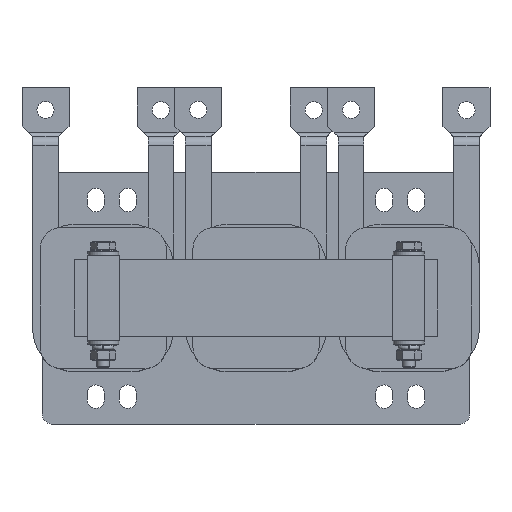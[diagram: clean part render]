
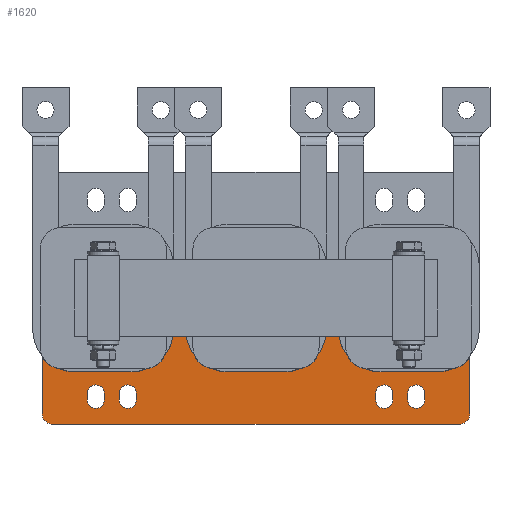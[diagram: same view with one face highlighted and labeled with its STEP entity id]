
A CAD part, top view. The second image highlights one B-rep face of the part: STEP entity #1620.
In plain terms, the highlighted planar face has unit normal (0, 0, 1).
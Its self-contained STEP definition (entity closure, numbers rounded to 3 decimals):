
#1620=ADVANCED_FACE('',(#1939,#1941,#1943,#1945,#1947),#1949,.T.);
#1939=FACE_BOUND('',#1940,.T.);
#1940=EDGE_LOOP('',(#3295,#3296,#3297,#3298,#3299,#3300));
#1941=FACE_BOUND('',#1942,.T.);
#1942=EDGE_LOOP('',(#3301,#3302,#3303,#3304));
#1943=FACE_BOUND('',#1944,.T.);
#1944=EDGE_LOOP('',(#3305,#3306,#3307,#3308));
#1945=FACE_BOUND('',#1946,.T.);
#1946=EDGE_LOOP('',(#3309,#3310,#3311,#3312));
#1947=FACE_BOUND('',#1948,.T.);
#1948=EDGE_LOOP('',(#3313,#3314,#3315,#3316));
#1949=PLANE('',#1950);
#1950=AXIS2_PLACEMENT_3D('',#1951,#1952,#1953);
#1951=CARTESIAN_POINT('',(0.,0.,2.));
#1952=DIRECTION('',(0.,0.,1.));
#1953=DIRECTION('',(-1.,0.,0.));
#3295=ORIENTED_EDGE('',*,*,#4081,.F.);
#3296=ORIENTED_EDGE('',*,*,#4101,.T.);
#3297=ORIENTED_EDGE('',*,*,#4102,.T.);
#3298=ORIENTED_EDGE('',*,*,#4103,.T.);
#3299=ORIENTED_EDGE('',*,*,#4104,.T.);
#3300=ORIENTED_EDGE('',*,*,#4105,.T.);
#3301=ORIENTED_EDGE('',*,*,#4106,.T.);
#3302=ORIENTED_EDGE('',*,*,#4107,.T.);
#3303=ORIENTED_EDGE('',*,*,#4108,.T.);
#3304=ORIENTED_EDGE('',*,*,#4109,.T.);
#3305=ORIENTED_EDGE('',*,*,#4110,.T.);
#3306=ORIENTED_EDGE('',*,*,#4111,.T.);
#3307=ORIENTED_EDGE('',*,*,#4112,.T.);
#3308=ORIENTED_EDGE('',*,*,#4113,.T.);
#3309=ORIENTED_EDGE('',*,*,#4114,.T.);
#3310=ORIENTED_EDGE('',*,*,#4115,.T.);
#3311=ORIENTED_EDGE('',*,*,#4116,.T.);
#3312=ORIENTED_EDGE('',*,*,#4117,.T.);
#3313=ORIENTED_EDGE('',*,*,#4118,.T.);
#3314=ORIENTED_EDGE('',*,*,#4119,.T.);
#3315=ORIENTED_EDGE('',*,*,#4120,.T.);
#3316=ORIENTED_EDGE('',*,*,#4121,.T.);
#4081=EDGE_CURVE('',#4516,#4518,#4519,.T.);
#4101=EDGE_CURVE('',#4516,#4551,#4553,.T.);
#4102=EDGE_CURVE('',#4551,#4554,#4555,.T.);
#4103=EDGE_CURVE('',#4554,#4556,#4557,.T.);
#4104=EDGE_CURVE('',#4556,#4558,#4559,.T.);
#4105=EDGE_CURVE('',#4558,#4518,#4560,.T.);
#4106=EDGE_CURVE('',#4561,#4562,#4563,.F.);
#4107=EDGE_CURVE('',#4562,#4564,#4565,.F.);
#4108=EDGE_CURVE('',#4564,#4566,#4567,.F.);
#4109=EDGE_CURVE('',#4566,#4561,#4568,.F.);
#4110=EDGE_CURVE('',#4569,#4570,#4571,.F.);
#4111=EDGE_CURVE('',#4570,#4572,#4573,.F.);
#4112=EDGE_CURVE('',#4572,#4574,#4575,.F.);
#4113=EDGE_CURVE('',#4574,#4569,#4576,.F.);
#4114=EDGE_CURVE('',#4577,#4578,#4579,.F.);
#4115=EDGE_CURVE('',#4578,#4580,#4581,.F.);
#4116=EDGE_CURVE('',#4580,#4582,#4583,.F.);
#4117=EDGE_CURVE('',#4582,#4577,#4584,.F.);
#4118=EDGE_CURVE('',#4585,#4586,#4587,.F.);
#4119=EDGE_CURVE('',#4586,#4588,#4589,.F.);
#4120=EDGE_CURVE('',#4588,#4590,#4591,.F.);
#4121=EDGE_CURVE('',#4590,#4585,#4592,.F.);
#4516=VERTEX_POINT('',#5262);
#4518=VERTEX_POINT('',#5266);
#4519=LINE('',#5267,#5268);
#4551=VERTEX_POINT('',#5345);
#4553=LINE('',#5349,#5350);
#4554=VERTEX_POINT('',#5352);
#4555=CIRCLE('',#5353,5.);
#4556=VERTEX_POINT('',#5357);
#4557=LINE('',#5358,#5359);
#4558=VERTEX_POINT('',#5361);
#4559=CIRCLE('',#5362,5.);
#4560=LINE('',#5366,#5367);
#4561=VERTEX_POINT('',#5369);
#4562=VERTEX_POINT('',#5370);
#4563=CIRCLE('',#5371,4.);
#4564=VERTEX_POINT('',#5375);
#4565=LINE('',#5376,#5377);
#4566=VERTEX_POINT('',#5379);
#4567=CIRCLE('',#5380,4.);
#4568=LINE('',#5384,#5385);
#4569=VERTEX_POINT('',#5387);
#4570=VERTEX_POINT('',#5388);
#4571=CIRCLE('',#5389,4.);
#4572=VERTEX_POINT('',#5393);
#4573=LINE('',#5394,#5395);
#4574=VERTEX_POINT('',#5397);
#4575=CIRCLE('',#5398,4.);
#4576=LINE('',#5402,#5403);
#4577=VERTEX_POINT('',#5405);
#4578=VERTEX_POINT('',#5406);
#4579=LINE('',#5407,#5408);
#4580=VERTEX_POINT('',#5410);
#4581=CIRCLE('',#5411,4.);
#4582=VERTEX_POINT('',#5415);
#4583=LINE('',#5416,#5417);
#4584=CIRCLE('',#5419,4.);
#4585=VERTEX_POINT('',#5423);
#4586=VERTEX_POINT('',#5424);
#4587=LINE('',#5425,#5426);
#4588=VERTEX_POINT('',#5428);
#4589=CIRCLE('',#5429,4.);
#4590=VERTEX_POINT('',#5433);
#4591=LINE('',#5434,#5435);
#4592=CIRCLE('',#5437,4.);
#5262=CARTESIAN_POINT('',(100.,-19.5,2.));
#5266=CARTESIAN_POINT('',(-100.,-19.5,2.));
#5267=CARTESIAN_POINT('',(100.,-19.5,2.));
#5268=VECTOR('',#5269,1.);
#5269=DIRECTION('',(-1.,0.,0.));
#5345=CARTESIAN_POINT('',(100.,16.5,2.));
#5349=CARTESIAN_POINT('',(100.,-19.5,2.));
#5350=VECTOR('',#5351,1.);
#5351=DIRECTION('',(0.,1.,0.));
#5352=CARTESIAN_POINT('',(95.,21.5,2.));
#5353=AXIS2_PLACEMENT_3D('',#5354,#5355,#5356);
#5354=CARTESIAN_POINT('',(95.,16.5,2.));
#5355=DIRECTION('',(0.,0.,1.));
#5356=DIRECTION('',(1.,0.,0.));
#5357=CARTESIAN_POINT('',(-95.,21.5,2.));
#5358=CARTESIAN_POINT('',(95.,21.5,2.));
#5359=VECTOR('',#5360,1.);
#5360=DIRECTION('',(-1.,0.,0.));
#5361=CARTESIAN_POINT('',(-100.,16.5,2.));
#5362=AXIS2_PLACEMENT_3D('',#5363,#5364,#5365);
#5363=CARTESIAN_POINT('',(-95.,16.5,2.));
#5364=DIRECTION('',(0.,0.,1.));
#5365=DIRECTION('',(0.,1.,0.));
#5366=CARTESIAN_POINT('',(-100.,16.5,2.));
#5367=VECTOR('',#5368,1.);
#5368=DIRECTION('',(0.,-1.,0.));
#5369=CARTESIAN_POINT('',(-79.,10.,2.));
#5370=CARTESIAN_POINT('',(-71.,10.,2.));
#5371=AXIS2_PLACEMENT_3D('',#5372,#5373,#5374);
#5372=CARTESIAN_POINT('',(-75.,10.,2.));
#5373=DIRECTION('',(-0.,0.,1.));
#5374=DIRECTION('',(1.,0.,0.));
#5375=CARTESIAN_POINT('',(-71.,7.,2.));
#5376=CARTESIAN_POINT('',(-71.,7.,2.));
#5377=VECTOR('',#5378,1.);
#5378=DIRECTION('',(0.,1.,0.));
#5379=CARTESIAN_POINT('',(-79.,7.,2.));
#5380=AXIS2_PLACEMENT_3D('',#5381,#5382,#5383);
#5381=CARTESIAN_POINT('',(-75.,7.,2.));
#5382=DIRECTION('',(0.,0.,1.));
#5383=DIRECTION('',(-1.,0.,0.));
#5384=CARTESIAN_POINT('',(-79.,10.,2.));
#5385=VECTOR('',#5386,1.);
#5386=DIRECTION('',(0.,-1.,0.));
#5387=CARTESIAN_POINT('',(-64.,10.,2.));
#5388=CARTESIAN_POINT('',(-56.,10.,2.));
#5389=AXIS2_PLACEMENT_3D('',#5390,#5391,#5392);
#5390=CARTESIAN_POINT('',(-60.,10.,2.));
#5391=DIRECTION('',(-0.,0.,1.));
#5392=DIRECTION('',(1.,0.,0.));
#5393=CARTESIAN_POINT('',(-56.,7.,2.));
#5394=CARTESIAN_POINT('',(-56.,7.,2.));
#5395=VECTOR('',#5396,1.);
#5396=DIRECTION('',(0.,1.,0.));
#5397=CARTESIAN_POINT('',(-64.,7.,2.));
#5398=AXIS2_PLACEMENT_3D('',#5399,#5400,#5401);
#5399=CARTESIAN_POINT('',(-60.,7.,2.));
#5400=DIRECTION('',(0.,0.,1.));
#5401=DIRECTION('',(-1.,0.,0.));
#5402=CARTESIAN_POINT('',(-64.,10.,2.));
#5403=VECTOR('',#5404,1.);
#5404=DIRECTION('',(0.,-1.,0.));
#5405=CARTESIAN_POINT('',(64.,10.,2.));
#5406=CARTESIAN_POINT('',(64.,7.,2.));
#5407=CARTESIAN_POINT('',(64.,7.,2.));
#5408=VECTOR('',#5409,1.);
#5409=DIRECTION('',(0.,1.,0.));
#5410=CARTESIAN_POINT('',(56.,7.,2.));
#5411=AXIS2_PLACEMENT_3D('',#5412,#5413,#5414);
#5412=CARTESIAN_POINT('',(60.,7.,2.));
#5413=DIRECTION('',(0.,0.,1.));
#5414=DIRECTION('',(-1.,0.,0.));
#5415=CARTESIAN_POINT('',(56.,10.,2.));
#5416=CARTESIAN_POINT('',(56.,10.,2.));
#5417=VECTOR('',#5418,1.);
#5418=DIRECTION('',(0.,-1.,0.));
#5419=AXIS2_PLACEMENT_3D('',#5420,#5421,#5422);
#5420=CARTESIAN_POINT('',(60.,10.,2.));
#5421=DIRECTION('',(-0.,0.,1.));
#5422=DIRECTION('',(1.,0.,0.));
#5423=CARTESIAN_POINT('',(79.,10.,2.));
#5424=CARTESIAN_POINT('',(79.,7.,2.));
#5425=CARTESIAN_POINT('',(79.,7.,2.));
#5426=VECTOR('',#5427,1.);
#5427=DIRECTION('',(0.,1.,0.));
#5428=CARTESIAN_POINT('',(71.,7.,2.));
#5429=AXIS2_PLACEMENT_3D('',#5430,#5431,#5432);
#5430=CARTESIAN_POINT('',(75.,7.,2.));
#5431=DIRECTION('',(0.,0.,1.));
#5432=DIRECTION('',(-1.,0.,0.));
#5433=CARTESIAN_POINT('',(71.,10.,2.));
#5434=CARTESIAN_POINT('',(71.,10.,2.));
#5435=VECTOR('',#5436,1.);
#5436=DIRECTION('',(0.,-1.,0.));
#5437=AXIS2_PLACEMENT_3D('',#5438,#5439,#5440);
#5438=CARTESIAN_POINT('',(75.,10.,2.));
#5439=DIRECTION('',(-0.,0.,1.));
#5440=DIRECTION('',(1.,0.,0.));
